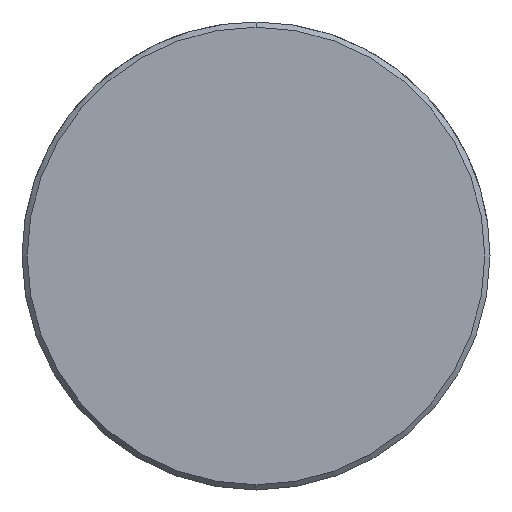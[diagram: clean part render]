
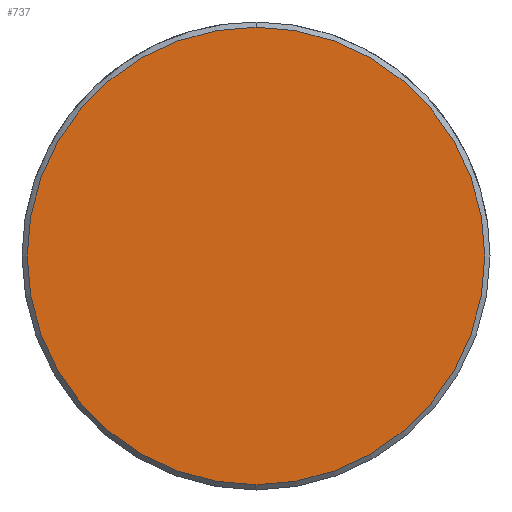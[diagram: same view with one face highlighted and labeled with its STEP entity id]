
A CAD part, left-side view. The second image highlights one B-rep face of the part: STEP entity #737.
In plain terms, the highlighted planar face has unit normal (-1, 0, 0).
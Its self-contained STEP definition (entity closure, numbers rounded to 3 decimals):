
#669=CARTESIAN_POINT('Vertex',(0.,0.,-13.2)) ;
#672=CARTESIAN_POINT('Axis2P3D Location',(0.,0.,0.)) ;
#676=CARTESIAN_POINT('Vertex',(0.,13.2,0.)) ;
#679=CARTESIAN_POINT('Axis2P3D Location',(0.,0.,0.)) ;
#683=CARTESIAN_POINT('Vertex',(0.,0.,13.2)) ;
#705=CARTESIAN_POINT('Axis2P3D Location',(0.,0.,0.)) ;
#709=CARTESIAN_POINT('Vertex',(0.,-13.2,0.)) ;
#712=CARTESIAN_POINT('Axis2P3D Location',(0.,0.,0.)) ;
#726=CARTESIAN_POINT('Axis2P3D Location',(0.,0.,0.)) ;
#673=DIRECTION('Axis2P3D Direction',(1.,0.,-0.)) ;
#680=DIRECTION('Axis2P3D Direction',(1.,0.,-0.)) ;
#706=DIRECTION('Axis2P3D Direction',(1.,0.,-0.)) ;
#713=DIRECTION('Axis2P3D Direction',(1.,0.,-0.)) ;
#727=DIRECTION('Axis2P3D Direction',(1.,0.,-0.)) ;
#728=DIRECTION('Axis2P3D XDirection',(-0.,0.,-1.)) ;
#674=AXIS2_PLACEMENT_3D('Circle Axis2P3D',#672,#673,$) ;
#681=AXIS2_PLACEMENT_3D('Circle Axis2P3D',#679,#680,$) ;
#707=AXIS2_PLACEMENT_3D('Circle Axis2P3D',#705,#706,$) ;
#714=AXIS2_PLACEMENT_3D('Circle Axis2P3D',#712,#713,$) ;
#729=AXIS2_PLACEMENT_3D('Plane Axis2P3D',#726,#727,#728) ;
#732=ORIENTED_EDGE('',*,*,#678,.F.) ;
#733=ORIENTED_EDGE('',*,*,#716,.F.) ;
#734=ORIENTED_EDGE('',*,*,#711,.F.) ;
#735=ORIENTED_EDGE('',*,*,#685,.F.) ;
#737=ADVANCED_FACE('549-24X160',(#736),#730,.F.) ;
#675=CIRCLE('generated circle',#674,13.2) ;
#682=CIRCLE('generated circle',#681,13.2) ;
#708=CIRCLE('generated circle',#707,13.2) ;
#715=CIRCLE('generated circle',#714,13.2) ;
#678=EDGE_CURVE('',#670,#677,#675,.T.) ;
#685=EDGE_CURVE('',#677,#684,#682,.T.) ;
#711=EDGE_CURVE('',#684,#710,#708,.T.) ;
#716=EDGE_CURVE('',#710,#670,#715,.T.) ;
#731=EDGE_LOOP('',(#732,#733,#734,#735)) ;
#736=FACE_OUTER_BOUND('',#731,.T.) ;
#730=PLANE('Plane',#729) ;
#670=VERTEX_POINT('',#669) ;
#677=VERTEX_POINT('',#676) ;
#684=VERTEX_POINT('',#683) ;
#710=VERTEX_POINT('',#709) ;
